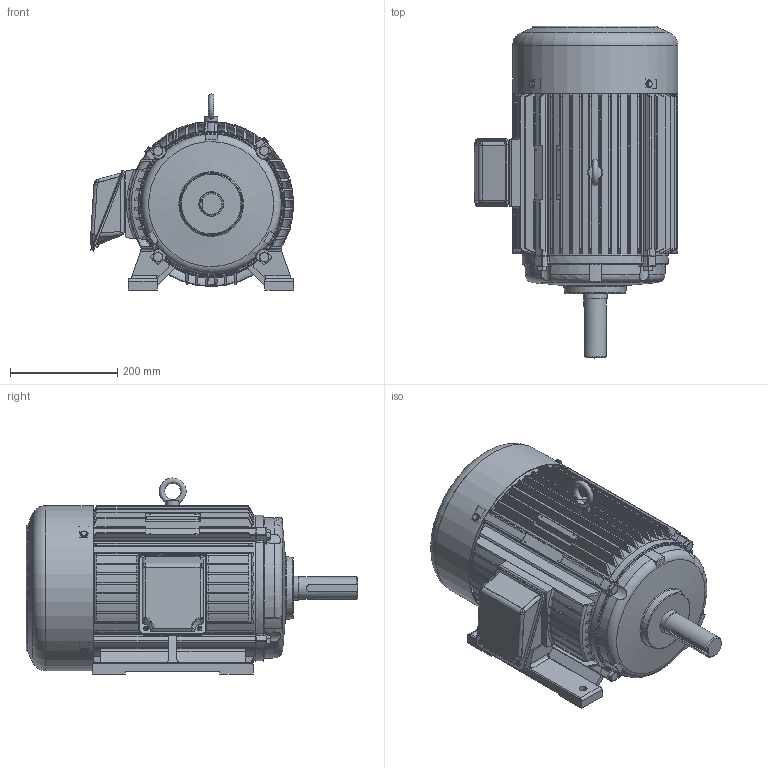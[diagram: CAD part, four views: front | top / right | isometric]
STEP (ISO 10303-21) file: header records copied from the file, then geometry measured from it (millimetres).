
FILE_DESCRIPTION(/* description */ ('Unknown'),/* implementation_level */ '2;1');
FILE_NAME(/* name */ '1-SMA-39404_외형도(260DIA)',/* time_stamp */ '2026-07-24T08:28:34+09:00',/* author */ ('Unknown'),/* organization */ ('Unknown'),/* preprocessor_version */ 'ST-DEVELOPER v16',/* originating_system */ 'DEX',/* authorisation */ $);
FILE_SCHEMA (('AUTOMOTIVE_DESIGN {1 0 10303 214 3 1 1}'));
Length unit declared in the file: millimetre
Products named in the file (15): 1-SMA-39404_寇屈档(260DI; 2-SMA-39392_FRAME(260DIA); 3-SMA-31033_¾Õºê¶óÄÏ(260DÅ¾|·Ï(; 4-SMA-31034_µÚºê¶óÄÏ(260D´¾|·Ï(; 5-SMA-39405_SHAFT(260DIA); 6-SMA-31244_FAN(205DIA); 7-SMA-31036_FAN COVER(260DIA); 8-SMA-33050_T-BOX(鼻)(205~260DIA); 9-SMA-33051_T-BOX(ж)(205~260DIA); 6309ZZ; 6308ZZ; 幫陝獐お M10x1.5x; I獐お M12x1.75x22; 菅斬 褊濠 M5x0.8x0.8x10L; 幫陝Ы楠雖 M6x1
Assembly tree (24 placements, depth 2):
  1-SMA-39404_寇屈档(260DI
    2-SMA-39392_FRAME(260DIA)
    3-SMA-31033_¾Õºê¶óÄÏ(260DÅ¾|·Ï(
    4-SMA-31034_µÚºê¶óÄÏ(260D´¾|·Ï(
    5-SMA-39405_SHAFT(260DIA)
    6-SMA-31244_FAN(205DIA)
    7-SMA-31036_FAN COVER(260DIA)
    8-SMA-33050_T-BOX(鼻)(205~260DIA)
    9-SMA-33051_T-BOX(ж)(205~260DIA)
    6309ZZ
    6308ZZ
    幫陝獐お M10x1.5x  x7
    I獐お M12x1.75x22
    菅斬 褊濠 M5x0.8x0.8x10L  x2
    幫陝Ы楠雖 M6x1  x4
Bounding box: 379.39 x 617.99 x 364.99 mm (x, y, z)
Volume: 6638654.6 mm3; surface area: 2209822.2 mm2
Topology: 47 solids, 47 shells, 2278 faces, 5921 edges, 3736 vertices
Faces by surface type: plane 739, cylinder 626, cone 462, torus 225, bspline 190, sphere 36
Full cylindrical faces by diameter (mm): 2.2 x4, 4.134 x2, 4.917 x6, 5 x2, 6 x10, 7 x2, 8.376 x17, 10 x20, 10.106 x1, 12 x6, 14 x4, 15 x4, 25 x2, 25.3 x1, 35 x1, 39.8 x1, 40 x3, 40.8 x1, 42 x1, 44 x2, 44.8 x1, 45 x2, 45.8 x1, 46.1 x1, 49 x1, 53 x1, 54.286 x2, 54.686 x2, 60.714 x2, 61.114 x2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
Entity records: 94546 total; most frequent: CARTESIAN_POINT 41255, ORIENTED_EDGE 10236, DIRECTION 9449, EDGE_CURVE 5118, AXIS2_PLACEMENT_3D 3872, VERTEX_POINT 3367, FACE_BOUND 2457, EDGE_LOOP 2428
